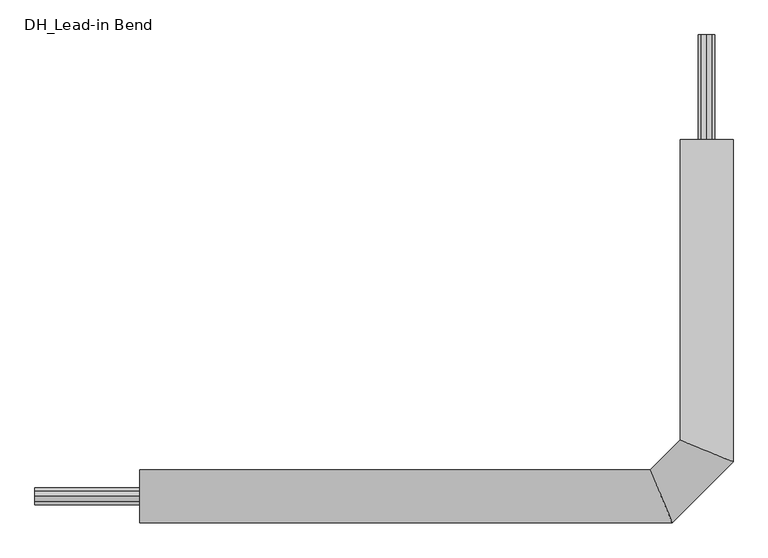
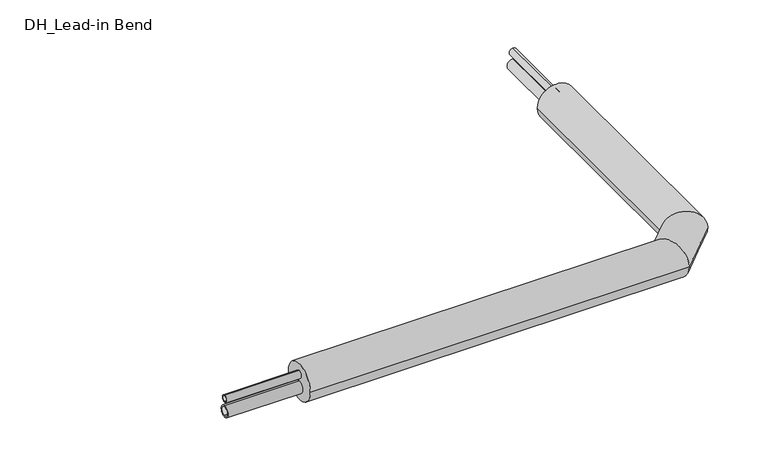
"""IFC4 building model written with IfcOpenShell, lengths in millimetres: pipe fitting geometry, DH_Lead-in Bend : RVT/RVX/RTX DUO 7.4 MKV DW Horizontal."""

import ifcopenshell
import ifcopenshell.guid

model = None  # the IFC model being written
_history = None  # IfcOwnerHistory: only IFC2X3 demands one
_inside = {}  # id of a spatial element -> (the spatial element, [elements in it])
_under = {}  # id of a project, library or spatial element -> (it, [spatial elements below it])
_declared = {}  # id of a project -> (the project, [libraries it declares])
_typed = {}  # id of a type object -> (the type object, [elements of that type])
_made_of = {}  # id of a material, layer set ... -> (it, [elements and type objects made of it])


def new_model(schema):
    """Start an empty IFC model of exactly this schema.

    Asked for "IFC4X3", IfcOpenShell would pick the latest addendum, in which some entities
    have other attributes; the version numbers below select the first issue.
    IFC2X3 requires an IfcOwnerHistory on every rooted entity: one is made here for all.
    """
    global model, _history
    if schema == "IFC4X3":
        model = ifcopenshell.file(schema_version=(4, 3, 0, 0))
    else:
        model = ifcopenshell.file(schema=schema)
    _inside.clear()
    _under.clear()
    _declared.clear()
    _typed.clear()
    _made_of.clear()
    _history = None
    if model.schema == "IFC2X3":
        org = make("IfcOrganization", Name="unknown")
        user = make(
            "IfcPersonAndOrganization",
            ThePerson=make("IfcPerson", FamilyName="unknown"),
            TheOrganization=org,
        )
        app = make(
            "IfcApplication",
            ApplicationDeveloper=org,
            Version="unknown",
            ApplicationFullName="unknown",
            ApplicationIdentifier="unknown",
        )
        _history = make(
            "IfcOwnerHistory",
            OwningUser=user,
            OwningApplication=app,
            ChangeAction="ADDED",
            CreationDate=0,
        )
    return model


def make(cls, **values):
    """One entity of the class cls with the attributes given. An attribute that is None is left unset."""
    return model.create_entity(
        cls, **{name: value for name, value in values.items() if value is not None}
    )


def rooted(cls, **values):
    """An entity with a GlobalId (a new one), such as an element, a storey or a relation."""
    return make(cls, GlobalId=ifcopenshell.guid.new(), OwnerHistory=_history, **values)


def si_unit(unit_type, name, prefix=None):
    """IfcSIUnit, for example si_unit("LENGTHUNIT", "METRE", prefix="MILLI")."""
    return make("IfcSIUnit", UnitType=unit_type, Prefix=prefix, Name=name)


def assignment(units):
    """IfcUnitAssignment: the units of a project."""
    return None if units is None else make("IfcUnitAssignment", Units=units)


def point(xyz):
    """IfcCartesianPoint."""
    return None if xyz is None else make("IfcCartesianPoint", Coordinates=xyz)


def direction(xyz):
    """IfcDirection."""
    return None if xyz is None else make("IfcDirection", DirectionRatios=xyz)


def frame(location, z_axis=None, x_axis=None):
    """IfcAxis2Placement3D, a coordinate frame: its origin and axes. An axis left out is left unset."""
    return make(
        "IfcAxis2Placement3D",
        Location=point(location),
        Axis=direction(z_axis),
        RefDirection=direction(x_axis),
    )


def frame_2d(location, x_axis=None):
    """IfcAxis2Placement2D, a coordinate frame in the plane: its origin and x axis."""
    return make(
        "IfcAxis2Placement2D", Location=point(location), RefDirection=direction(x_axis)
    )


def origin():
    """The frame at (0, 0, 0) with its axes left unset."""
    return frame((0.0, 0.0, 0.0))


def place(relative_to, where):
    """IfcLocalPlacement: puts the frame where relative to a parent placement (None: the world)."""
    return make(
        "IfcLocalPlacement", PlacementRelTo=relative_to, RelativePlacement=where
    )


def context(
    kind, dimensions, precision=None, world=None, true_north=None, identifier=None
):
    """IfcGeometricRepresentationContext, for example the 3D "Model" context."""
    return make(
        "IfcGeometricRepresentationContext",
        ContextIdentifier=identifier,
        ContextType=kind,
        CoordinateSpaceDimension=dimensions,
        Precision=precision,
        WorldCoordinateSystem=world,
        TrueNorth=true_north,
    )


def project(units=None, contexts=None):
    """IfcProject with its units and contexts."""
    return rooted(
        "IfcProject",
        Name="project",
        RepresentationContexts=contexts,
        UnitsInContext=assignment(units),
    )


def spatial(cls, under=None, at=None, **own):
    """A site, building, storey or space (cls), placed at a placement, below another one or the project."""
    s = rooted(cls, ObjectPlacement=at, **own)
    if under is not None:
        _under.setdefault(under.id(), (under, []))[1].append(s)
    return s


def circle_curve(where, radius):
    """IfcCircle in the frame where."""
    return make("IfcCircle", Position=where, Radius=radius)


def ellipse_curve(where, semi_axis1, semi_axis2):
    """IfcEllipse in the frame where."""
    return make(
        "IfcEllipse", Position=where, SemiAxis1=semi_axis1, SemiAxis2=semi_axis2
    )


def trimmed(basis, trim1, trim2, sense, master):
    """IfcTrimmedCurve: the piece of a basis curve between two trims."""
    return make(
        "IfcTrimmedCurve",
        BasisCurve=basis,
        Trim1=trim1,
        Trim2=trim2,
        SenseAgreement=sense,
        MasterRepresentation=master,
    )


def segment(curve, same_sense, transition):
    """IfcCompositeCurveSegment."""
    return make(
        "IfcCompositeCurveSegment",
        Transition=transition,
        SameSense=same_sense,
        ParentCurve=curve,
    )


def composite_curve(segments, self_intersect=None):
    """IfcCompositeCurve: segments joined end to end."""
    return make("IfcCompositeCurve", Segments=segments, SelfIntersect=self_intersect)


def outline(outer, holes=None, kind="AREA"):
    """IfcArbitraryClosedProfileDef: a profile drawn as a closed curve; with holes, ...WithVoids."""
    if holes is None:
        return make("IfcArbitraryClosedProfileDef", ProfileType=kind, OuterCurve=outer)
    return make(
        "IfcArbitraryProfileDefWithVoids",
        ProfileType=kind,
        OuterCurve=outer,
        InnerCurves=holes,
    )


def extrude(swept, where, along, depth):
    """IfcExtrudedAreaSolid: the profile swept, set in the frame where, extruded along a direction by depth."""
    return make(
        "IfcExtrudedAreaSolid",
        SweptArea=swept,
        Position=where,
        ExtrudedDirection=direction(along),
        Depth=depth,
    )


def shape(context_of_items, identifier, shape_type, items):
    """IfcShapeRepresentation: the items that make up one representation, for example the "Body"."""
    return make(
        "IfcShapeRepresentation",
        ContextOfItems=context_of_items,
        RepresentationIdentifier=identifier,
        RepresentationType=shape_type,
        Items=items,
    )


def source(mapping_origin, context_of_items, identifier, shape_type, items):
    """IfcRepresentationMap: a shape defined once, which mapped items show again and again."""
    return make(
        "IfcRepresentationMap",
        MappingOrigin=mapping_origin,
        MappedRepresentation=shape(context_of_items, identifier, shape_type, items),
    )


def transform(
    local_origin,
    x_axis=None,
    y_axis=None,
    z_axis=None,
    scale=None,
    scale2=None,
    scale3=None,
    uniform=True,
):
    """IfcCartesianTransformationOperator3D, or its non-uniform kind. x_axis, y_axis, z_axis: its Axis1, 2, 3."""
    if uniform:
        return make(
            "IfcCartesianTransformationOperator3D",
            Axis1=direction(x_axis),
            Axis2=direction(y_axis),
            LocalOrigin=point(local_origin),
            Scale=scale,
            Axis3=direction(z_axis),
        )
    return make(
        "IfcCartesianTransformationOperator3DnonUniform",
        Axis1=direction(x_axis),
        Axis2=direction(y_axis),
        LocalOrigin=point(local_origin),
        Scale=scale,
        Axis3=direction(z_axis),
        Scale2=scale2,
        Scale3=scale3,
    )


def mapped(mapping_source, mapping_target):
    """IfcMappedItem: shows the shape of a source again, moved by a transform."""
    return make(
        "IfcMappedItem", MappingSource=mapping_source, MappingTarget=mapping_target
    )


def made_of(thing, what):
    """Note that an element or type object is made of a material, layer set ...; save() writes the relation."""
    if what is not None:
        _made_of.setdefault(what.id(), (what, []))[1].append(thing)
    return thing


def element(
    cls,
    number,
    at=None,
    inside=None,
    cuts=None,
    type_object=None,
    material=None,
    context=None,
    identifier="Body",
    shape_type=None,
    held_by="IfcProductDefinitionShape",
    body=None,
    shapes=None,
    **own,
):
    """One element of the class cls, such as IfcWall. Its Tag is "e" and its number.

    at: its placement. inside: the storey or other place that contains it. cuts: it is an
    opening in that element (IfcRelVoidsElement). A single representation is given by context,
    identifier, shape_type and body (its items); several are given by shapes. held_by: the class
    of the entity that holds the representations. save() writes the other relations.
    """
    e = rooted(cls, Tag="e%d" % number, ObjectPlacement=at, **own)
    if body is not None:
        shapes = [shape(context, identifier, shape_type, body)]
    if shapes is not None:
        e.Representation = make(held_by, Representations=shapes)
    if inside is not None:
        _inside.setdefault(inside.id(), (inside, []))[1].append(e)
    if cuts is not None:
        rooted(
            "IfcRelVoidsElement", RelatingBuildingElement=cuts, RelatedOpeningElement=e
        )
    if type_object is not None:
        _typed.setdefault(type_object.id(), (type_object, []))[1].append(e)
    return made_of(e, material)


def aggregate(whole, parts):
    """IfcRelAggregates: a whole, such as a stair, and the parts it consists of."""
    return rooted("IfcRelAggregates", RelatingObject=whole, RelatedObjects=parts)


def save(model, path):
    """Write the relations noted so far, then the file.

    IfcRelAggregates (storeys below a building ...), IfcRelContainedInSpatialStructure (elements
    in a storey), IfcRelDefinesByType, IfcRelAssociatesMaterial and IfcRelDeclares: one each for
    every whole, place, type object, material and project.
    """
    for whole, parts in _under.values():
        aggregate(whole, parts)
    for where, things in _inside.values():
        rooted(
            "IfcRelContainedInSpatialStructure",
            RelatedElements=things,
            RelatingStructure=where,
        )
    for kind, things in _typed.values():
        rooted("IfcRelDefinesByType", RelatedObjects=things, RelatingType=kind)
    for what, things in _made_of.values():
        rooted("IfcRelAssociatesMaterial", RelatedObjects=things, RelatingMaterial=what)
    for by, libraries in _declared.values():
        rooted("IfcRelDeclares", RelatingContext=by, RelatedDefinitions=libraries)
    model.write(path)


def plane_surface(at):
    """IfcPlane: the flat surface through the origin of the frame at, square to its z axis."""
    return make("IfcPlane", Position=at)


def cylinder_surface(at, radius):
    """IfcCylindricalSurface: all points at the distance radius from the z axis of the frame at."""
    return make("IfcCylindricalSurface", Position=at, Radius=radius)


def advanced_brep(points, edges, surfaces, faces):
    """IfcAdvancedBrep: a solid bounded by faces that lie on surfaces and meet in shared edges.

    An edge is (start, end): straight between two places in points (the first is 0);
    or (start, end, curve); or (start, end, curve, False) where it runs against its curve.
    A face is (place in surfaces, loops), or (place, loops, False) where it looks against
    its surface's normal. A loop lists edges by number (the first is 1), with a minus sign
    where the edge is run from its end to its start. The first loop is the outer one.
    """
    corners = [point(p) for p in points]
    vertices = [make("IfcVertexPoint", VertexGeometry=c) for c in corners]
    made = []
    for start, end, *more in edges:
        made.append(
            make(
                "IfcEdgeCurve",
                EdgeStart=vertices[start],
                EdgeEnd=vertices[end],
                EdgeGeometry=more[0] if more else make("IfcPolyline", Points=[corners[start], corners[end]]),
                SameSense=more[1] if len(more) > 1 else True,
            )
        )
    hull = []
    for where, loops, *sense in faces:
        bounds = []
        for j, loop in enumerate(loops):
            ring = [make("IfcOrientedEdge", EdgeElement=made[abs(k) - 1], Orientation=k > 0) for k in loop]
            bounds.append(
                make(
                    "IfcFaceOuterBound" if j == 0 else "IfcFaceBound",
                    Bound=make("IfcEdgeLoop", EdgeList=ring),
                    Orientation=True,
                )
            )
        hull.append(make("IfcAdvancedFace", Bounds=bounds, FaceSurface=surfaces[where], SameSense=sense[0] if sense else True))
    return make("IfcAdvancedBrep", Outer=make("IfcClosedShell", CfsFaces=hull))


def dh_lead_in_bend_3ab27fd6(model_context):
    return source(origin(), model_context, "Body", "SolidModel", [
        extrude(outline(composite_curve([segment(trimmed(circle_curve(frame_2d((0.0, -18.5)), 20.0), [point((0.0, 1.5))], [point((0.0, -38.5))], False, "CARTESIAN"), True, "CONTINUOUS"), segment(trimmed(circle_curve(frame_2d((0.0, -18.5)), 20.0), [point((0.0, -38.5))], [point((0.0, 1.5))], False, "CARTESIAN"), True, "CONTINUOUS")], self_intersect=False), holes=[composite_curve([segment(trimmed(circle_curve(frame_2d((0.0, -18.5)), 14.5), [point((0.0, -4.0))], [point((0.0, -33.0))], True, "CARTESIAN"), True, "CONTINUOUS"), segment(trimmed(circle_curve(frame_2d((0.0, -18.5)), 14.5), [point((0.0, -33.0))], [point((0.0, -4.0))], True, "CARTESIAN"), True, "CONTINUOUS")], self_intersect=False)]), frame((-1600.0, 0.0, 0.0), z_axis=(1.0, 0.0, 0.0), x_axis=(0.0, 1.0, 0.0)), (0.0, 0.0, 1.0), 250.0),
        advanced_brep(
        [(-1350.0, -63.0, 0.0), (-1350.0, 63.0, 0.0), (-82.2045456, -63.0, 0.0), (-134.3954544, 63.0, 0.0), (63.0, 850.0, 0.0), (-63.0, 850.0, 0.0), (-63.0, 134.3954544, 0.0), (63.0, 82.2045456, 0.0)],
        [
            (0, 1, circle_curve(frame((-1350.0, 0.0, 0.0), z_axis=(-1.0, 0.0, 0.0), x_axis=(0.0, 1.0, 0.0)), 63.0)),
            (1, 0, circle_curve(frame((-1350.0, 0.0, 0.0), z_axis=(-1.0, 0.0, 0.0), x_axis=(0.0, 1.0, 0.0)), 63.0)),
            (0, 2),
            (2, 3, ellipse_curve(frame((-108.3, 0.0, 0.0), z_axis=(-0.9238795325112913, -0.3826834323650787, 0.0), x_axis=(-0.3826834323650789, 0.9238795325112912, 0.0)), 68.1907086, 63.0)),
            (3, 1),
            (3, 2, ellipse_curve(frame((-108.3, 0.0, 0.0), z_axis=(-0.9238795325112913, -0.3826834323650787, 0.0), x_axis=(-0.3826834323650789, 0.9238795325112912, 0.0)), 68.1907086, 63.0)),
            (4, 5, circle_curve(frame((0.0, 850.0, 0.0), z_axis=(0.0, 1.0, 0.0), x_axis=(-1.0, 0.0, 0.0)), 63.0)),
            (5, 4, circle_curve(frame((0.0, 850.0, 0.0), z_axis=(0.0, 1.0, 0.0), x_axis=(-1.0, 0.0, 0.0)), 63.0)),
            (6, 7, ellipse_curve(frame((0.0, 108.3, 0.0), z_axis=(0.3826834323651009, 0.9238795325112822, 0.0), x_axis=(0.9238795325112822, -0.3826834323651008, 0.0)), 68.1907086, 63.0)),
            (7, 4),
            (5, 6),
            (7, 6, ellipse_curve(frame((0.0, 108.3, 0.0), z_axis=(0.3826834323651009, 0.9238795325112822, 0.0), x_axis=(0.9238795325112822, -0.3826834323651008, 0.0)), 68.1907086, 63.0)),
            (2, 7),
            (6, 3),
        ],
        [
            plane_surface(frame((-1350.0, 0.0, 0.0), z_axis=(-1.0, 0.0, 0.0), x_axis=(0.0, 0.0, 1.0))),
            cylinder_surface(frame((-1350.0, 0.0, 0.0), z_axis=(-1.0, 0.0, 0.0), x_axis=(0.0, 1.0, 0.0)), 63.0),
            plane_surface(frame((0.0, 850.0, 0.0), z_axis=(0.0, 1.0, 0.0), x_axis=(0.0, 0.0, 1.0))),
            cylinder_surface(frame((0.0, 108.3, 0.0), z_axis=(0.0, -1.0, 0.0), x_axis=(-1.0, 0.0, 0.0)), 63.0),
            cylinder_surface(frame((-108.3, 0.0, 0.0), z_axis=(-0.7071067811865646, -0.7071067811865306, 0.0), x_axis=(-0.7071067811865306, 0.7071067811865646, 0.0)), 63.0),
        ],
        [
            (0, [[1, 2]]),
            (1, [[-1, 3, 4, 5]]),
            (1, [[-2, -5, 6, -3]]),
            (2, [[7, 8]]),
            (3, [[9, 10, -8, 11]]),
            (3, [[12, -11, -7, -10]]),
            (4, [[-4, 13, -9, 14]]),
            (4, [[-6, -14, -12, -13]]),
        ],
    ),
        extrude(outline(composite_curve([segment(trimmed(circle_curve(frame_2d((26.0, 0.0)), 12.5), [point((13.5, 0.0))], [point((38.5, 0.0))], False, "CARTESIAN"), True, "CONTINUOUS"), segment(trimmed(circle_curve(frame_2d((26.0, 0.0)), 12.5), [point((38.5, 0.0))], [point((13.5, 0.0))], False, "CARTESIAN"), True, "CONTINUOUS")], self_intersect=False), holes=[composite_curve([segment(trimmed(circle_curve(frame_2d((26.0, 0.0)), 9.0), [point((17.0, 0.0))], [point((35.0, 0.0))], True, "CARTESIAN"), True, "CONTINUOUS"), segment(trimmed(circle_curve(frame_2d((26.0, 0.0)), 9.0), [point((35.0, 0.0))], [point((17.0, 0.0))], True, "CARTESIAN"), True, "CONTINUOUS")], self_intersect=False)]), frame((0.0, 850.0, 0.0), z_axis=(0.0, 1.0, 0.0), x_axis=(0.0, 0.0, 1.0)), (0.0, 0.0, 1.0), 250.0),
        extrude(outline(composite_curve([segment(trimmed(circle_curve(frame_2d((0.0, 26.0)), 12.5), [point((0.0, 13.5))], [point((0.0, 38.5))], False, "CARTESIAN"), True, "CONTINUOUS"), segment(trimmed(circle_curve(frame_2d((0.0, 26.0)), 12.5), [point((0.0, 38.5))], [point((0.0, 13.5))], False, "CARTESIAN"), True, "CONTINUOUS")], self_intersect=False), holes=[composite_curve([segment(trimmed(circle_curve(frame_2d((0.0, 26.0)), 9.0), [point((0.0, 17.0))], [point((0.0, 35.0))], True, "CARTESIAN"), True, "CONTINUOUS"), segment(trimmed(circle_curve(frame_2d((0.0, 26.0)), 9.0), [point((0.0, 35.0))], [point((0.0, 17.0))], True, "CARTESIAN"), True, "CONTINUOUS")], self_intersect=False)]), frame((-1600.0, 0.0, 0.0), z_axis=(1.0, 0.0, 0.0), x_axis=(0.0, 1.0, 0.0)), (0.0, 0.0, 1.0), 250.0),
        extrude(outline(composite_curve([segment(trimmed(circle_curve(frame_2d((-18.5, 0.0)), 20.0), [point((1.5, 0.0))], [point((-38.5, 0.0))], False, "CARTESIAN"), True, "CONTINUOUS"), segment(trimmed(circle_curve(frame_2d((-18.5, 0.0)), 20.0), [point((-38.5, 0.0))], [point((1.5, 0.0))], False, "CARTESIAN"), True, "CONTINUOUS")], self_intersect=False), holes=[composite_curve([segment(trimmed(circle_curve(frame_2d((-18.5, 0.0)), 14.5), [point((-4.0, 0.0))], [point((-33.0, 0.0))], True, "CARTESIAN"), True, "CONTINUOUS"), segment(trimmed(circle_curve(frame_2d((-18.5, 0.0)), 14.5), [point((-33.0, 0.0))], [point((-4.0, 0.0))], True, "CARTESIAN"), True, "CONTINUOUS")], self_intersect=False)]), frame((0.0, 850.0, 0.0), z_axis=(0.0, 1.0, 0.0), x_axis=(0.0, 0.0, 1.0)), (0.0, 0.0, 1.0), 250.0),
    ])


if __name__ == "__main__":
    model = new_model("IFC4")
    model_context = context("Model", 3, world=origin())
    ifc_project = project(units=[si_unit("LENGTHUNIT", "METRE", prefix="MILLI")], contexts=[model_context])
    site = spatial("IfcSite", under=ifc_project)
    building = spatial("IfcBuilding", under=site)
    placement = place(None, origin())
    dh_lead_in_bend_shape = dh_lead_in_bend_3ab27fd6(model_context)
    element("IfcPipeFitting", 1, ObjectType="DH_Lead-in Bend : RVT/RVX/RTX DUO 7.4 MKV DW Horizontal", at=placement, inside=building, context=model_context, shape_type="MappedRepresentation", body=[
        mapped(dh_lead_in_bend_shape, transform((0.0, 0.0, 0.0), x_axis=(1.0, 0.0, 0.0), y_axis=(0.0, 1.0, 0.0), z_axis=(0.0, 0.0, 1.0))),
    ])
    save(model, "model.ifc")
